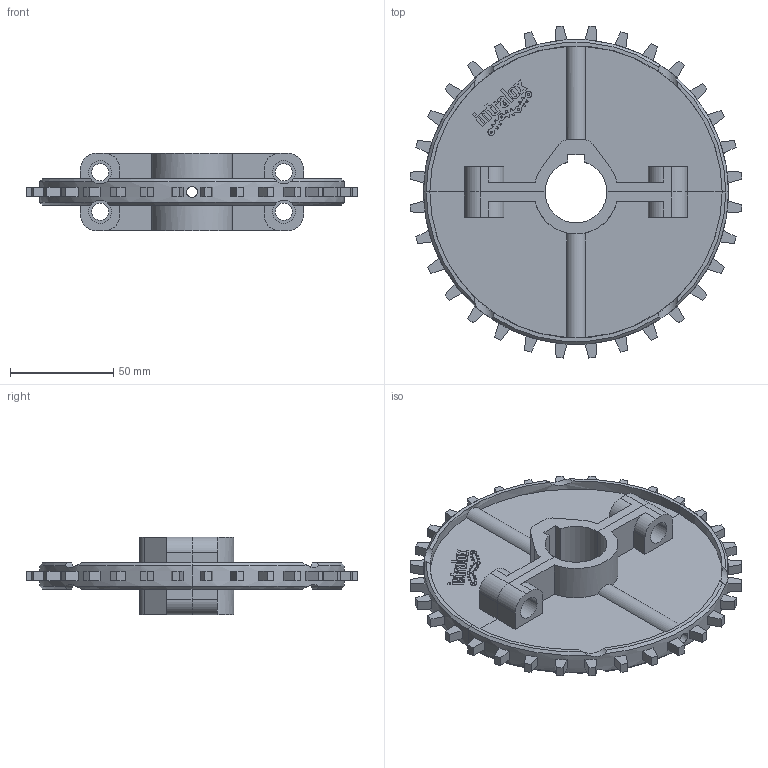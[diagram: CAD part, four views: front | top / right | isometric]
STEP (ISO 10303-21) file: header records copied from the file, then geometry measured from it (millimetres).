
FILE_DESCRIPTION((''),'2;1');
FILE_NAME('S1000_SPLIT_6-1X1-25_PILOT_ASM','2012-01-09T',('rklein'),('INTRALOX'),'PRO/ENGINEER BY PARAMETRIC TECHNOLOGY CORPORATION, 2009460','PRO/ENGINEER BY PARAMETRIC TECHNOLOGY CORPORATION, 2009460','');
FILE_SCHEMA(('CONFIG_CONTROL_DESIGN'));
Length unit declared in the file: inch
Products named in the file (3): S1000_SPLIT_6-1X1-25_PILOT__AF0; S1000_SPLIT_6-1X1-25_PILOT__AF1; S1000_SPLIT_6-1X1-25_PILOT_ASM
Assembly tree (2 placements, depth 2):
  S1000_SPLIT_6-1X1-25_PILOT_ASM
    S1000_SPLIT_6-1X1-25_PILOT__AF0
    S1000_SPLIT_6-1X1-25_PILOT__AF1
Bounding box: 160.67 x 160.67 x 37.59 mm (x, y, z)
Volume: 124415.8 mm3; surface area: 70645.8 mm2
Topology: 2 solids, 2 shells, 780 faces, 2136 edges, 1424 vertices
Faces by surface type: plane 493, cylinder 275, cone 12
Entity records: 25632 total; most frequent: CARTESIAN_POINT 5139, DIRECTION 4278, ORIENTED_EDGE 4272, EDGE_CURVE 2136, VECTOR 1468, LINE 1468, VERTEX_POINT 1424, AXIS2_PLACEMENT_3D 1405
